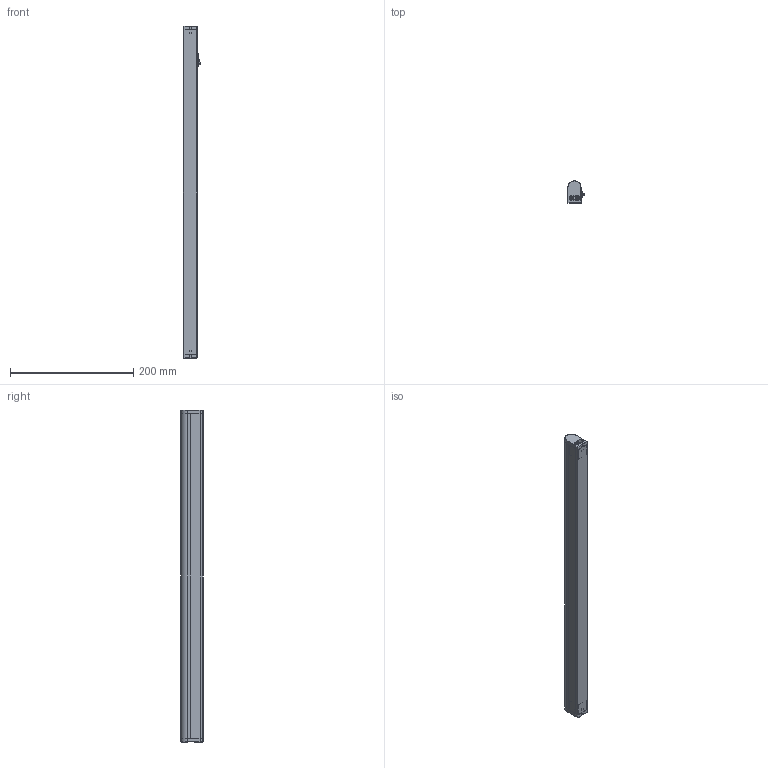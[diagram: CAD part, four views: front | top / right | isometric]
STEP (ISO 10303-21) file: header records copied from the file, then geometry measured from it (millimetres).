
FILE_DESCRIPTION (( 'STEP AP203' ), '1' );
FILE_NAME ('4001c-1-9W.STEP', '2019-01-08T10:07:40', ( '' ), ( '' ), 'SwSTEP 2.0', 'SolidWorks 2017', '' );
FILE_SCHEMA (( 'CONFIG_CONTROL_DESIGN' ));
Length unit declared in the file: millimetre
Products named in the file (6): 4001C-1-OUT; 4001C-HOUSING; 4001c-1-9W; 4001C-DIFFUSER; SWITCH-21; 4001C-1-IN
Assembly tree (5 placements, depth 2):
  4001c-1-9W
    4001C-HOUSING
    4001C-DIFFUSER
    4001C-1-IN
    4001C-1-OUT
    SWITCH-21
Bounding box: 28.09 x 36 x 538 mm (x, y, z)
Volume: 62659.4 mm3; surface area: 152732.7 mm2
Topology: 6 solids, 6 shells, 355 faces, 969 edges, 622 vertices
Faces by surface type: plane 212, cylinder 115, bspline 20, torus 8
Entity records: 13056 total; most frequent: CARTESIAN_POINT 3376, ORIENTED_EDGE 1910, DIRECTION 1897, EDGE_CURVE 955, VECTOR 647, LINE 647, AXIS2_PLACEMENT_3D 625, VERTEX_POINT 622
